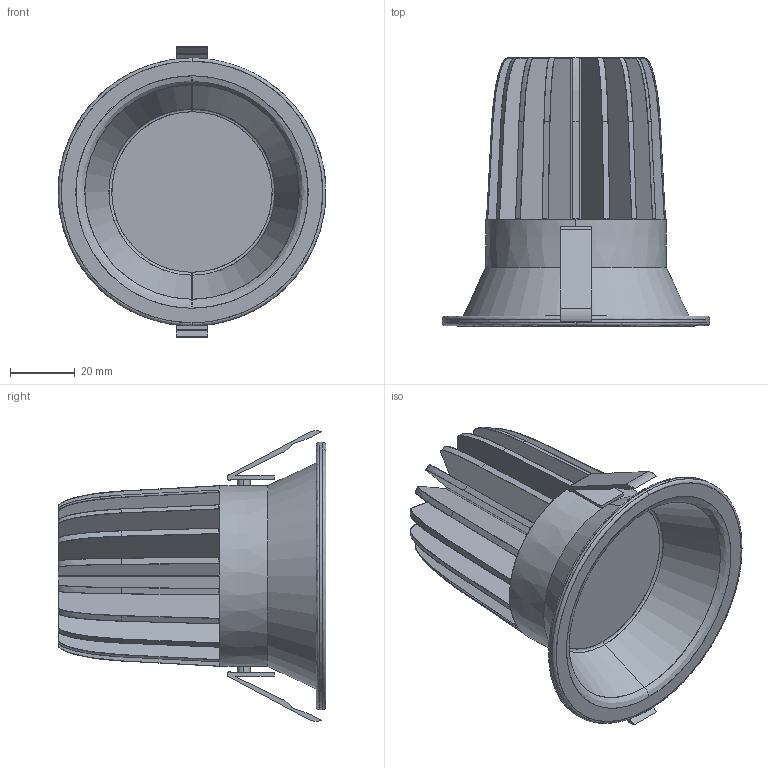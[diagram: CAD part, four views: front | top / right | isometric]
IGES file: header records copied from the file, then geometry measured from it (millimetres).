
Start section: SolidWorks IGES file using analytic representation for surfaces
Global section: file name: C:\Users\danielet\Desktop\ISMAIL\EXCEL\KIDAL-A37710-3D\KIDAL-A37710-3D.IGS; native system: SolidWorks 2018; preprocessor: SolidWorks 2018; author: danielet; date: 230324.101445; units: millimetre
Bounding box: 83 x 83 x 90.03 mm (x, y, z)
Surface area: 56352 mm2 (no closed solid volume)
Topology: 0 solids, 0 shells, 319 faces, 2616 edges, 2610 vertices
Faces by surface type: bspline 198, revolution 121
